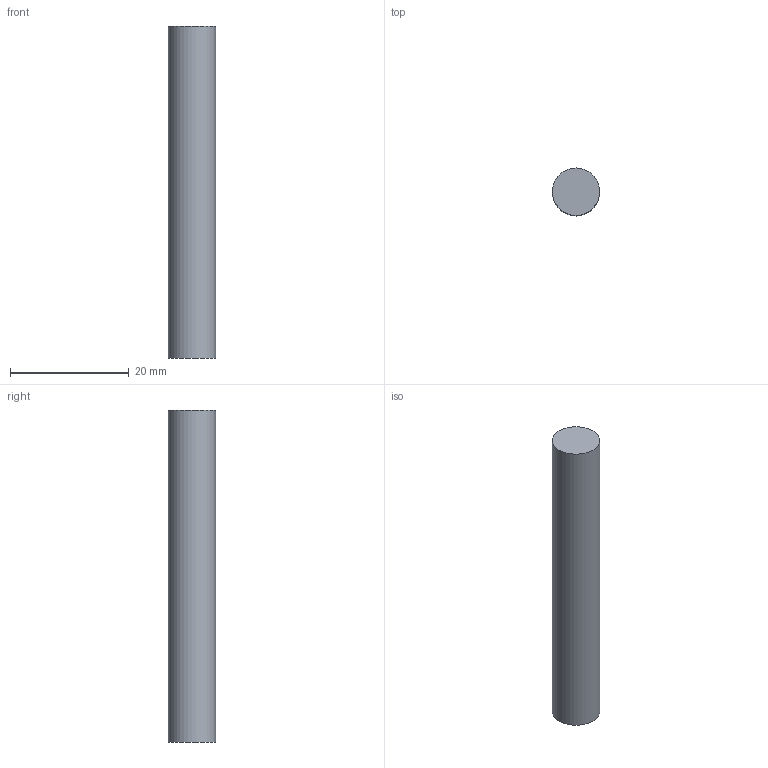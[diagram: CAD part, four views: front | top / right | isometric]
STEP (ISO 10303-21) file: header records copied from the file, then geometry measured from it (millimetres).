
FILE_DESCRIPTION(('Open CASCADE Model'),'2;1');
FILE_NAME('Open CASCADE Shape Model','2026-10-04T02:31:45',('Author'),( 'Open CASCADE'),'Open CASCADE STEP processor 8.0','Open CASCADE 8.0' ,'Unknown');
FILE_SCHEMA(('AUTOMOTIVE_DESIGN { 1 0 10303 214 1 1 1 1 }'));
Length unit declared in the file: millimetre
Products named in the file (1): Open CASCADE STEP translator 8.0 352
Bounding box: 8 x 8 x 56 mm (x, y, z)
Volume: 2814.9 mm3; surface area: 1508 mm2
Topology: 1 solids, 1 shells, 3 faces, 3 edges, 2 vertices
Faces by surface type: plane 2, cylinder 1
Full cylindrical faces by diameter (mm): 8 x1
Entity records: 108 total; most frequent: DIRECTION 19, CARTESIAN_POINT 15, AXIS2_PLACEMENT_3D 6, ORIENTED_EDGE 6, PCURVE 6, DEFINITIONAL_REPRESENTATION 6, LINE 5, VECTOR 5
